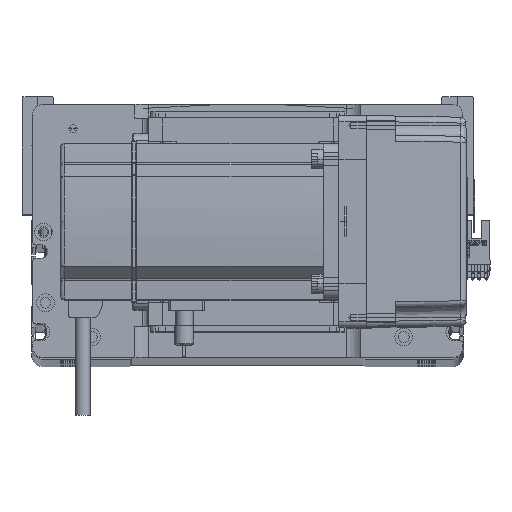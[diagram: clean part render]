
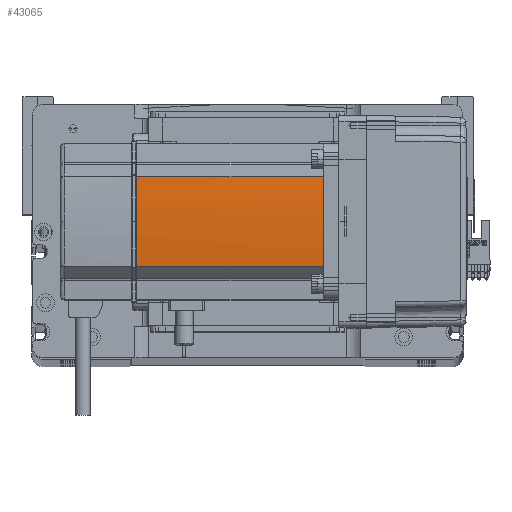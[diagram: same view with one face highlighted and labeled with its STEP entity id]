
A CAD part, top view. The second image highlights one B-rep face of the part: STEP entity #43065.
In plain terms, the highlighted cylindrical face has radius 270 mm (diameter 540 mm), a partial arc.
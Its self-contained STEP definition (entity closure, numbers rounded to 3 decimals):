
#1805 = DIRECTION ( 'NONE',  ( 1., 0., 0. ) ) ;
#3450 = DIRECTION ( 'NONE',  ( 0., 0., -1. ) ) ;
#3542 = VERTEX_POINT ( 'NONE', #38565 ) ;
#4571 = DIRECTION ( 'NONE',  ( 0., 0., -1. ) ) ;
#5022 = VERTEX_POINT ( 'NONE', #7206 ) ;
#5176 = VERTEX_POINT ( 'NONE', #23055 ) ;
#5237 = VECTOR ( 'NONE', #22613, 1000. ) ;
#5383 = CARTESIAN_POINT ( 'NONE',  ( 230., 0., 134. ) ) ;
#6235 = ORIENTED_EDGE ( 'NONE', *, *, #49573, .T. ) ;
#6477 = DIRECTION ( 'NONE',  ( 0., 0., -1. ) ) ;
#6959 = AXIS2_PLACEMENT_3D ( 'NONE', #5383, #6477, #36401 ) ;
#7206 = CARTESIAN_POINT ( 'NONE',  ( -40., 0., 134. ) ) ;
#8335 = LINE ( 'NONE', #30151, #15704 ) ;
#9178 = ORIENTED_EDGE ( 'NONE', *, *, #53146, .F. ) ;
#15704 = VECTOR ( 'NONE', #4571, 1000. ) ;
#16423 = DIRECTION ( 'NONE',  ( 0., 0., 1. ) ) ;
#16804 = CARTESIAN_POINT ( 'NONE',  ( 230., 0., 0. ) ) ;
#18802 = EDGE_CURVE ( 'NONE', #5022, #45940, #21535, .T. ) ;
#19369 = AXIS2_PLACEMENT_3D ( 'NONE', #16804, #16423, #21082 ) ;
#19587 = EDGE_CURVE ( 'NONE', #38335, #5022, #47591, .T. ) ;
#21082 = DIRECTION ( 'NONE',  ( 1., 0., 0. ) ) ;
#21459 = CARTESIAN_POINT ( 'NONE',  ( -39.042, -22.724, 134. ) ) ;
#21535 = CIRCLE ( 'NONE', #6959, 270. ) ;
#22613 = DIRECTION ( 'NONE',  ( 0., 0., 1. ) ) ;
#22840 = CIRCLE ( 'NONE', #34027, 270. ) ;
#23055 = CARTESIAN_POINT ( 'NONE',  ( -39.042, -22.724, 39. ) ) ;
#23523 = CYLINDRICAL_SURFACE ( 'NONE', #19369, 270. ) ;
#27458 = CARTESIAN_POINT ( 'NONE',  ( -39.042, 22.724, 134. ) ) ;
#27499 = EDGE_LOOP ( 'NONE', ( #32361, #51416, #6235, #9178, #44745 ) ) ;
#30151 = CARTESIAN_POINT ( 'NONE',  ( -39.042, 22.724, 0. ) ) ;
#31681 = AXIS2_PLACEMENT_3D ( 'NONE', #44458, #48436, #1805 ) ;
#32361 = ORIENTED_EDGE ( 'NONE', *, *, #19587, .T. ) ;
#34027 = AXIS2_PLACEMENT_3D ( 'NONE', #45771, #3450, #42210 ) ;
#36401 = DIRECTION ( 'NONE',  ( 1., 0., 0. ) ) ;
#38335 = VERTEX_POINT ( 'NONE', #21459 ) ;
#38565 = CARTESIAN_POINT ( 'NONE',  ( -39.042, 22.724, 39. ) ) ;
#39081 = CARTESIAN_POINT ( 'NONE',  ( -39.042, -22.724, 0. ) ) ;
#39318 = EDGE_CURVE ( 'NONE', #5176, #38335, #42719, .T. ) ;
#42210 = DIRECTION ( 'NONE',  ( 1., 0., 0. ) ) ;
#42719 = LINE ( 'NONE', #39081, #5237 ) ;
#42991 = FACE_OUTER_BOUND ( 'NONE', #27499, .T. ) ;
#43065 = ADVANCED_FACE ( 'NONE', ( #42991 ), #23523, .T. ) ;
#44458 = CARTESIAN_POINT ( 'NONE',  ( 230., 0., 134. ) ) ;
#44745 = ORIENTED_EDGE ( 'NONE', *, *, #39318, .T. ) ;
#45771 = CARTESIAN_POINT ( 'NONE',  ( 230., 0., 39. ) ) ;
#45940 = VERTEX_POINT ( 'NONE', #27458 ) ;
#47591 = CIRCLE ( 'NONE', #31681, 270. ) ;
#48436 = DIRECTION ( 'NONE',  ( 0., 0., -1. ) ) ;
#49573 = EDGE_CURVE ( 'NONE', #45940, #3542, #8335, .T. ) ;
#51416 = ORIENTED_EDGE ( 'NONE', *, *, #18802, .T. ) ;
#53146 = EDGE_CURVE ( 'NONE', #5176, #3542, #22840, .T. ) ;
